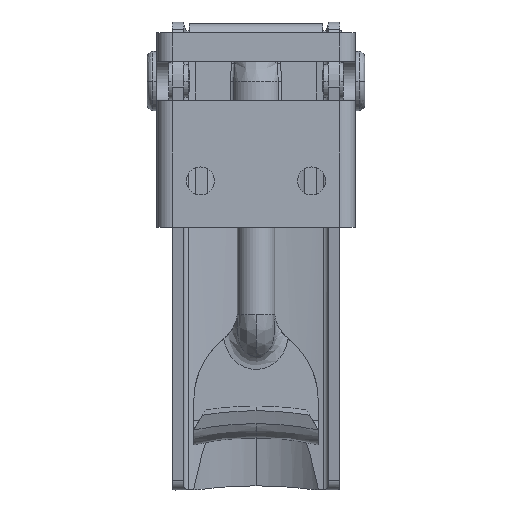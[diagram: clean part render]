
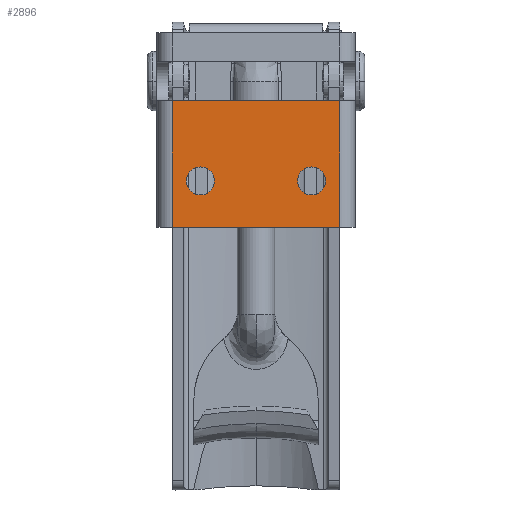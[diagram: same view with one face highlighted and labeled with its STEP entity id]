
A CAD part, front view. The second image highlights one B-rep face of the part: STEP entity #2896.
In plain terms, the highlighted planar face has unit normal (0, -1, 0).
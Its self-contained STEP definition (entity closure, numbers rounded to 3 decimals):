
#293 = EDGE_CURVE ( 'NONE', #3317, #3075, #9958, .T. ) ;
#297 = EDGE_CURVE ( 'NONE', #3198, #3224, #9952, .T. ) ;
#303 = EDGE_CURVE ( 'NONE', #3224, #3198, #9947, .T. ) ;
#305 = EDGE_CURVE ( 'NONE', #3075, #3317, #9945, .T. ) ;
#314 = EDGE_CURVE ( 'NONE', #3318, #3357, #9931, .T. ) ;
#319 = EDGE_CURVE ( 'NONE', #3064, #3357, #9921, .T. ) ;
#320 = EDGE_CURVE ( 'NONE', #3186, #3064, #9919, .T. ) ;
#321 = EDGE_CURVE ( 'NONE', #3318, #3186, #9917, .T. ) ;
#649 = AXIS2_PLACEMENT_3D ( 'NONE', #6751, #6750, #6749 ) ;
#651 = AXIS2_PLACEMENT_3D ( 'NONE', #6741, #6740, #6739 ) ;
#653 = AXIS2_PLACEMENT_3D ( 'NONE', #9834, #9833, #9832 ) ;
#655 = AXIS2_PLACEMENT_3D ( 'NONE', #9828, #9827, #9826 ) ;
#946 = AXIS2_PLACEMENT_3D ( 'NONE', #10238, #10239, #10240 ) ;
#2896 = ADVANCED_FACE ( 'NONE', ( #8301, #8302, #8303 ), #10237, .T. ) ;
#3064 = VERTEX_POINT ( 'NONE', #10906 ) ;
#3075 = VERTEX_POINT ( 'NONE', #10917 ) ;
#3186 = VERTEX_POINT ( 'NONE', #11028 ) ;
#3198 = VERTEX_POINT ( 'NONE', #11040 ) ;
#3224 = VERTEX_POINT ( 'NONE', #11066 ) ;
#3317 = VERTEX_POINT ( 'NONE', #11159 ) ;
#3318 = VERTEX_POINT ( 'NONE', #11160 ) ;
#3357 = VERTEX_POINT ( 'NONE', #11199 ) ;
#5510 = ORIENTED_EDGE ( 'NONE', *, *, #297, .T. ) ;
#5511 = ORIENTED_EDGE ( 'NONE', *, *, #293, .T. ) ;
#5522 = ORIENTED_EDGE ( 'NONE', *, *, #305, .T. ) ;
#5529 = ORIENTED_EDGE ( 'NONE', *, *, #303, .T. ) ;
#5532 = ORIENTED_EDGE ( 'NONE', *, *, #320, .F. ) ;
#5565 = ORIENTED_EDGE ( 'NONE', *, *, #321, .F. ) ;
#5569 = ORIENTED_EDGE ( 'NONE', *, *, #314, .T. ) ;
#5570 = ORIENTED_EDGE ( 'NONE', *, *, #319, .F. ) ;
#5711 = EDGE_LOOP ( 'NONE', ( #5570, #5532, #5565, #5569 ) ) ;
#5712 = EDGE_LOOP ( 'NONE', ( #5522, #5511 ) ) ;
#5713 = EDGE_LOOP ( 'NONE', ( #5529, #5510 ) ) ;
#6739 = DIRECTION ( 'NONE',  ( 0., 0., 1. ) ) ;
#6740 = DIRECTION ( 'NONE',  ( 0., 1., 0. ) ) ;
#6741 = CARTESIAN_POINT ( 'NONE',  ( -7.15, 0., -19.05 ) ) ;
#6749 = DIRECTION ( 'NONE',  ( 0., 0., 1. ) ) ;
#6750 = DIRECTION ( 'NONE',  ( 0., 1., 0. ) ) ;
#6751 = CARTESIAN_POINT ( 'NONE',  ( 7.15, 0., -19.05 ) ) ;
#8301 = FACE_OUTER_BOUND ( 'NONE', #5711, .T. ) ;
#8302 = FACE_BOUND ( 'NONE', #5712, .T. ) ;
#8303 = FACE_BOUND ( 'NONE', #5713, .T. ) ;
#9791 = DIRECTION ( 'NONE',  ( 0., 0., -1. ) ) ;
#9792 = CARTESIAN_POINT ( 'NONE',  ( 10.75, 0., -25. ) ) ;
#9793 = DIRECTION ( 'NONE',  ( -1., 0., 0. ) ) ;
#9794 = CARTESIAN_POINT ( 'NONE',  ( -11.25, 0., -25. ) ) ;
#9795 = DIRECTION ( 'NONE',  ( 0., 0., 1. ) ) ;
#9796 = CARTESIAN_POINT ( 'NONE',  ( -10.75, 0., -25. ) ) ;
#9806 = DIRECTION ( 'NONE',  ( -1., 0., 0. ) ) ;
#9807 = CARTESIAN_POINT ( 'NONE',  ( -12.75, 0., -8.75 ) ) ;
#9826 = DIRECTION ( 'NONE',  ( 0., 0., 1. ) ) ;
#9827 = DIRECTION ( 'NONE',  ( 0., 1., 0. ) ) ;
#9828 = CARTESIAN_POINT ( 'NONE',  ( 7.15, 0., -19.05 ) ) ;
#9832 = DIRECTION ( 'NONE',  ( 0., 0., 1. ) ) ;
#9833 = DIRECTION ( 'NONE',  ( 0., 1., 0. ) ) ;
#9834 = CARTESIAN_POINT ( 'NONE',  ( -7.15, 0., -19.05 ) ) ;
#9916 = VECTOR ( 'NONE', #9791, 1000. ) ;
#9917 = LINE ( 'NONE', #9792, #9916 ) ;
#9918 = VECTOR ( 'NONE', #9793, 1000. ) ;
#9919 = LINE ( 'NONE', #9794, #9918 ) ;
#9920 = VECTOR ( 'NONE', #9795, 1000. ) ;
#9921 = LINE ( 'NONE', #9796, #9920 ) ;
#9929 = VECTOR ( 'NONE', #9806, 1000. ) ;
#9931 = LINE ( 'NONE', #9807, #9929 ) ;
#9945 = CIRCLE ( 'NONE', #655, 1.8 ) ;
#9947 = CIRCLE ( 'NONE', #653, 1.8 ) ;
#9952 = CIRCLE ( 'NONE', #651, 1.8 ) ;
#9958 = CIRCLE ( 'NONE', #649, 1.8 ) ;
#10237 = PLANE ( 'NONE',  #946 ) ;
#10238 = CARTESIAN_POINT ( 'NONE',  ( -12.75, 0., -25. ) ) ;
#10239 = DIRECTION ( 'NONE',  ( 0., -1., 0. ) ) ;
#10240 = DIRECTION ( 'NONE',  ( 0., 0., -1. ) ) ;
#10906 = CARTESIAN_POINT ( 'NONE',  ( -10.75, 0., -25. ) ) ;
#10917 = CARTESIAN_POINT ( 'NONE',  ( 7.15, 0., -17.25 ) ) ;
#11028 = CARTESIAN_POINT ( 'NONE',  ( 10.75, 0., -25. ) ) ;
#11040 = CARTESIAN_POINT ( 'NONE',  ( -7.15, 0., -20.85 ) ) ;
#11066 = CARTESIAN_POINT ( 'NONE',  ( -7.15, 0., -17.25 ) ) ;
#11159 = CARTESIAN_POINT ( 'NONE',  ( 7.15, 0., -20.85 ) ) ;
#11160 = CARTESIAN_POINT ( 'NONE',  ( 10.75, 0., -8.75 ) ) ;
#11199 = CARTESIAN_POINT ( 'NONE',  ( -10.75, 0., -8.75 ) ) ;
